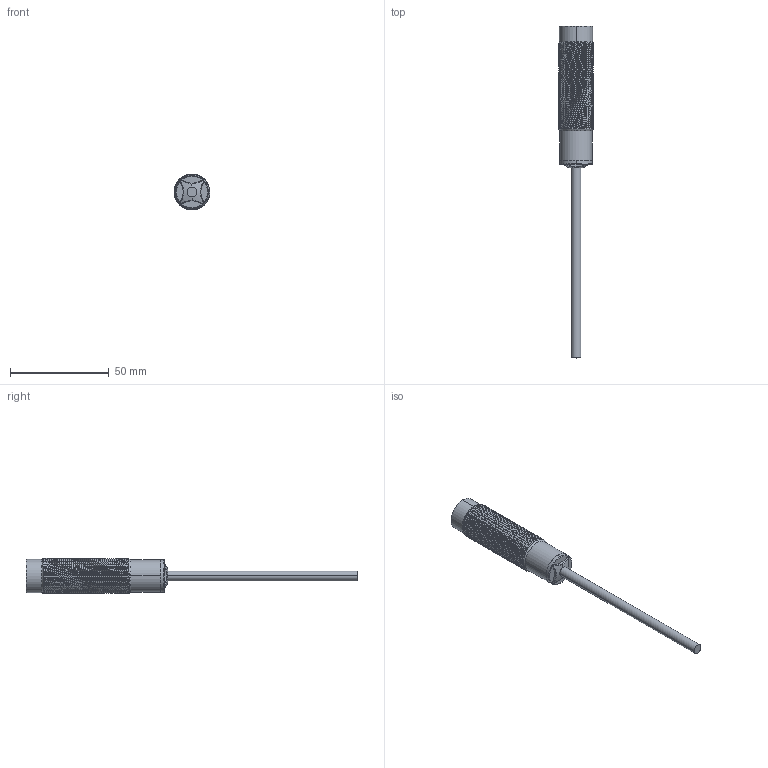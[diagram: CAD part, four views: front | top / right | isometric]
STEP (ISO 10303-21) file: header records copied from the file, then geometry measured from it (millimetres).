
FILE_DESCRIPTION((''),'2;1');
FILE_NAME('MN18-FEIMAI','2018-06-23T',('sdl'),(''),'PRO/ENGINEER BY PARAMETRIC TECHNOLOGY CORPORATION, 2004110','PRO/ENGINEER BY PARAMETRIC TECHNOLOGY CORPORATION, 2004110','');
FILE_SCHEMA(('CONFIG_CONTROL_DESIGN'));
Length unit declared in the file: millimetre
Products named in the file (1): MN18-FEIMAI
Bounding box: 18 x 168 x 18 mm (x, y, z)
Volume: 18472.8 mm3; surface area: 7164.5 mm2
Topology: 1 solids, 1 shells, 160 faces, 453 edges, 296 vertices
Faces by surface type: cylinder 98, bspline 45, plane 7, cone 4, torus 4, sphere 2
Entity records: 19925 total; most frequent: CARTESIAN_POINT 16401, ORIENTED_EDGE 906, EDGE_CURVE 453, DIRECTION 449, VERTEX_POINT 296, B_SPLINE_CURVE_WITH_KNOTS 283, AXIS2_PLACEMENT_3D 164, EDGE_LOOP 161
